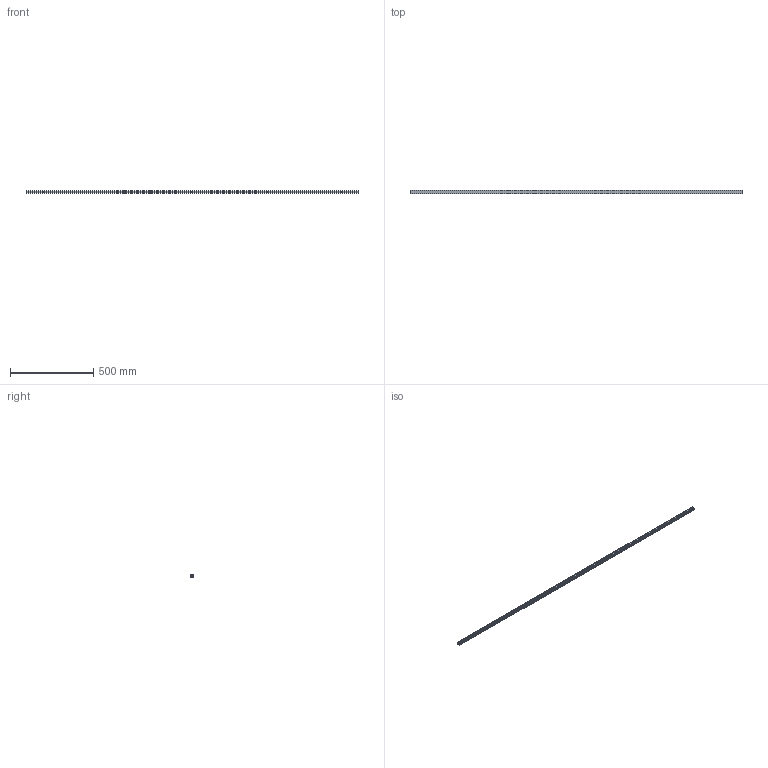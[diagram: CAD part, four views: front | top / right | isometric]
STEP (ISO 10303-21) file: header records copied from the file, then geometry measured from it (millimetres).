
FILE_DESCRIPTION (( 'STEP AP203' ), '1' );
FILE_NAME ('17.M07A20000 M7A.STEP', '2025-08-02T01:31:31', ( '' ), ( '' ), 'SwSTEP 2.0', 'SolidWorks 2020', '' );
FILE_SCHEMA (( 'CONFIG_CONTROL_DESIGN' ));
Length unit declared in the file: millimetre
Products named in the file (4): KC-0006-0045.stp; KC-0006-0002.stp; KC-0006-0003.stp; 17.M07A20000 M7A
Assembly tree (3 placements, depth 2):
  17.M07A20000 M7A
    KC-0006-0045.stp
    KC-0006-0002.stp
    KC-0006-0003.stp
Bounding box: 2000 x 20 x 12.5 mm (x, y, z)
Volume: 215165.4 mm3; surface area: 353807 mm2
Topology: 7 solids, 7 shells, 110 faces, 288 edges, 192 vertices
Faces by surface type: plane 82, cylinder 18, cone 10
Entity records: 3794 total; most frequent: CARTESIAN_POINT 596, ORIENTED_EDGE 576, DIRECTION 576, EDGE_CURVE 288, LINE 232, VECTOR 232, VERTEX_POINT 192, AXIS2_PLACEMENT_3D 172
